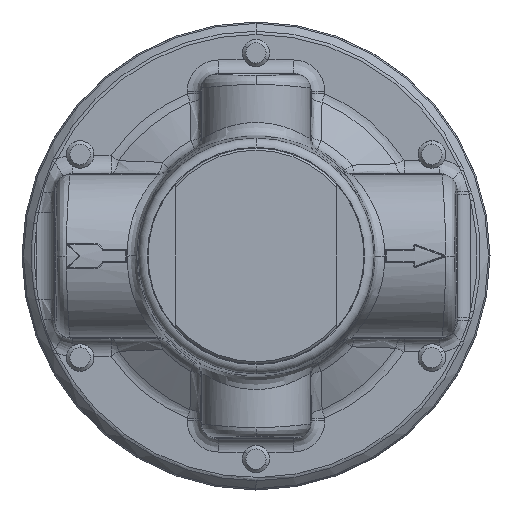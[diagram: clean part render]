
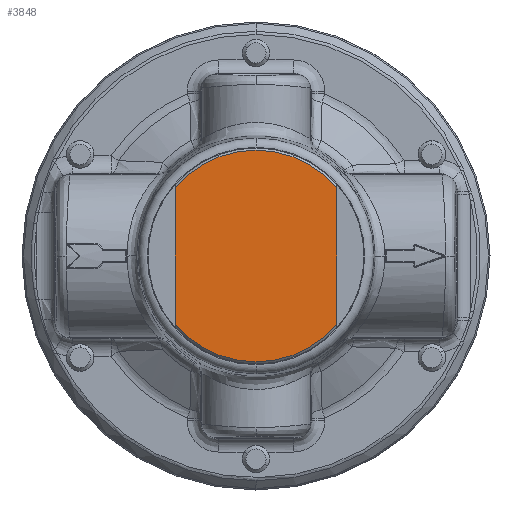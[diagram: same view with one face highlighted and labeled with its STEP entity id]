
A CAD part, front view. The second image highlights one B-rep face of the part: STEP entity #3848.
In plain terms, the highlighted planar face has unit normal (0, -1, 0).
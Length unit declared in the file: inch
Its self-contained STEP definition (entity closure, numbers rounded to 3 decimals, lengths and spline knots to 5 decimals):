
#125 = VERTEX_POINT ( 'NONE', #4793 ) ;
#143 = VERTEX_POINT ( 'NONE', #4811 ) ;
#389 = VERTEX_POINT ( 'NONE', #4883 ) ;
#728 = VERTEX_POINT ( 'NONE', #5222 ) ;
#1640 = ORIENTED_EDGE ( 'NONE', *, *, #3726, .F. ) ;
#1641 = ORIENTED_EDGE ( 'NONE', *, *, #3727, .T. ) ;
#1642 = ORIENTED_EDGE ( 'NONE', *, *, #3728, .T. ) ;
#1643 = ORIENTED_EDGE ( 'NONE', *, *, #3729, .T. ) ;
#3036 = EDGE_LOOP ( 'NONE', ( #1640, #1641, #1642, #1643 ) ) ;
#3726 = EDGE_CURVE ( 'NONE', #389, #143, #10766, .T. ) ;
#3727 = EDGE_CURVE ( 'NONE', #389, #125, #11665, .T. ) ;
#3728 = EDGE_CURVE ( 'NONE', #125, #728, #10773, .T. ) ;
#3729 = EDGE_CURVE ( 'NONE', #728, #143, #11670, .T. ) ;
#3848 = ADVANCED_FACE ( 'NONE', ( #11970 ), #11971, .T. ) ;
#4793 = CARTESIAN_POINT ( 'NONE',  ( 0.55875, -1.906, -0.47366 ) ) ;
#4811 = CARTESIAN_POINT ( 'NONE',  ( -0.55875, -1.906, 0.47366 ) ) ;
#4883 = CARTESIAN_POINT ( 'NONE',  ( -0.55875, -1.906, -0.47366 ) ) ;
#5222 = CARTESIAN_POINT ( 'NONE',  ( 0.55875, -1.906, 0.47366 ) ) ;
#10726 = CARTESIAN_POINT ( 'NONE',  ( -0.55875, -1.906, 0. ) ) ;
#10766 = LINE ( 'NONE', #10726, #11663 ) ;
#10770 = CARTESIAN_POINT ( 'NONE',  ( 0.55875, -1.906, 0. ) ) ;
#10771 = DIRECTION ( 'NONE',  ( 0., 0., 1. ) ) ;
#10773 = LINE ( 'NONE', #10770, #11667 ) ;
#10774 = CARTESIAN_POINT ( 'NONE',  ( 0., -1.906, 0. ) ) ;
#10775 = DIRECTION ( 'NONE',  ( 0., -1., 0. ) ) ;
#10776 = DIRECTION ( 'NONE',  ( 1., 0., 0. ) ) ;
#10777 = DIRECTION ( 'NONE',  ( 0., 0., 1. ) ) ;
#10779 = CARTESIAN_POINT ( 'NONE',  ( 0., -1.906, 0. ) ) ;
#10780 = DIRECTION ( 'NONE',  ( 0., -1., 0. ) ) ;
#10781 = DIRECTION ( 'NONE',  ( 1., 0., 0. ) ) ;
#11663 = VECTOR ( 'NONE', #10771, 39.37008 ) ;
#11665 = CIRCLE ( 'NONE', #11669, 0.7325 ) ;
#11667 = VECTOR ( 'NONE', #10777, 39.37008 ) ;
#11669 = AXIS2_PLACEMENT_3D ( 'NONE', #10774, #10775, #10776 ) ;
#11670 = CIRCLE ( 'NONE', #11672, 0.7325 ) ;
#11672 = AXIS2_PLACEMENT_3D ( 'NONE', #10779, #10780, #10781 ) ;
#11760 = AXIS2_PLACEMENT_3D ( 'NONE', #11968, #11974, #11975 ) ;
#11968 = CARTESIAN_POINT ( 'NONE',  ( 0., -1.906, 0. ) ) ;
#11970 = FACE_OUTER_BOUND ( 'NONE', #3036, .T. ) ;
#11971 = PLANE ( 'NONE',  #11760 ) ;
#11974 = DIRECTION ( 'NONE',  ( 0., -1., 0. ) ) ;
#11975 = DIRECTION ( 'NONE',  ( 1., 0., 0. ) ) ;
